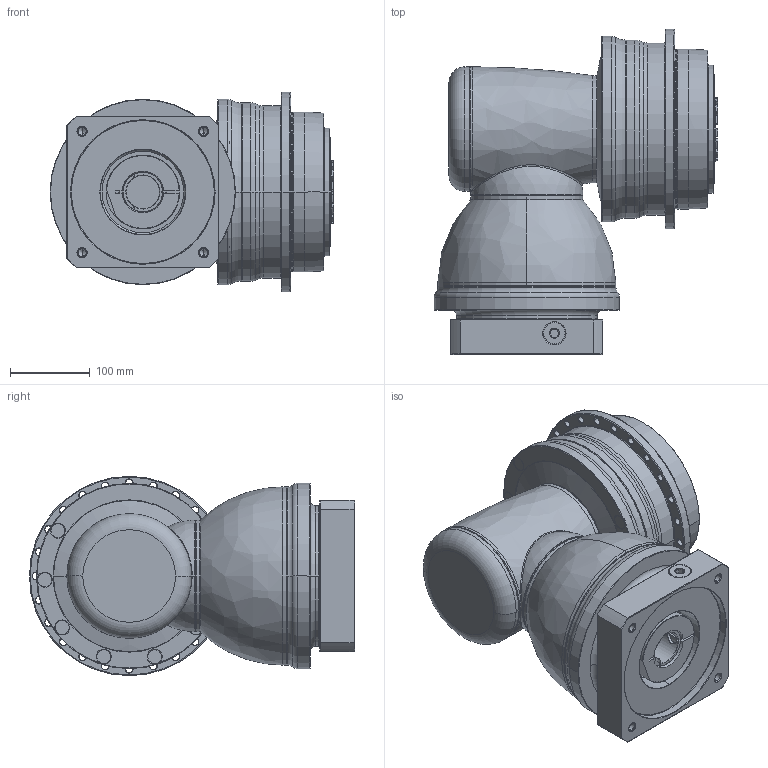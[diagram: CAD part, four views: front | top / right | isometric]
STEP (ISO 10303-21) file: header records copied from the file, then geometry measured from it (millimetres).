
FILE_DESCRIPTION((''),'2;1');
FILE_NAME('APCK200_2ST_SBG_42-P0409A00201_ASM','2018-05-18T',('d01226'),(''),'PRO/ENGINEER BY PARAMETRIC TECHNOLOGY CORPORATION, 2008410','PRO/ENGINEER BY PARAMETRIC TECHNOLOGY CORPORATION, 2008410','');
FILE_SCHEMA(('CONFIG_CONTROL_DESIGN'));
Length unit declared in the file: millimetre
Products named in the file (13): P0278601003; P0359660103; P1211600001; P1802610001; P1018600002; P1365600001; P1007601001; P1318610301; P0409A00201; P0503A00012; P0912603001; 21711422019; APCK200_2ST_SBG_42-P0409A00201_ASM
Assembly tree (12 placements, depth 2):
  APCK200_2ST_SBG_42-P0409A00201_ASM
    P0278601003
    P0359660103
    P1211600001
    P1802610001
    P1018600002
    P1365600001
    P1007601001
    P1318610301
    P0409A00201
    P0503A00012
    P0912603001
    21711422019
Bounding box: 355.1 x 406.75 x 249.5 mm (x, y, z)
Volume: 15411608.6 mm3; surface area: 1076311 mm2
Topology: 13 solids, 23 shells, 797 faces, 1863 edges, 1138 vertices
Faces by surface type: cylinder 266, cone 236, plane 153, torus 114, bspline 26, sphere 2
Entity records: 29358 total; most frequent: CARTESIAN_POINT 10453, DIRECTION 4293, ORIENTED_EDGE 3656, AXIS2_PLACEMENT_3D 1877, EDGE_CURVE 1849, VERTEX_POINT 1138, CIRCLE 1071, EDGE_LOOP 921
